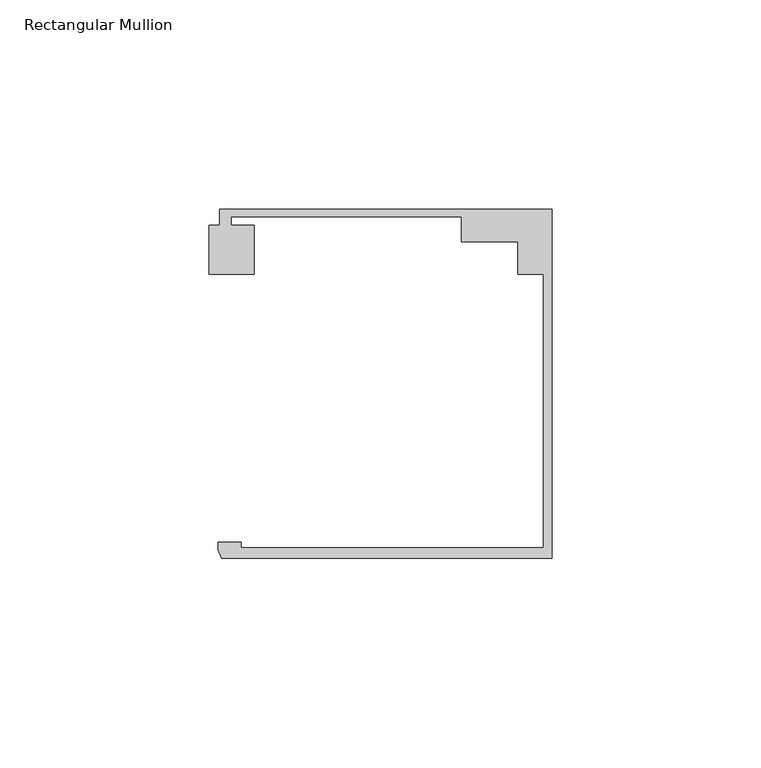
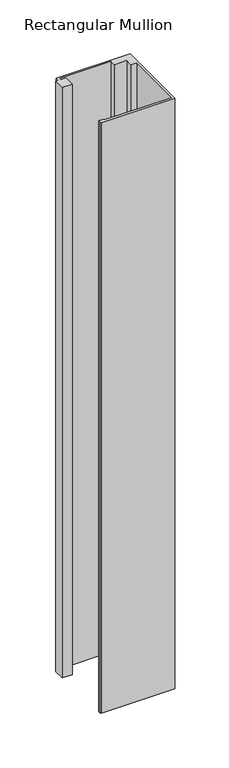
"""IFC4 building model written with IfcOpenShell, lengths in millimetres: member geometry, Rectangular Mullion : Danpal_Airpt_End-Mullion_B2."""

from ifc_helpers import new_model, si_unit, frame, origin, place, context, project, spatial, polyline, outline, extrude, source, transform, mapped, element, save


def rectangular_mullion_15ac1ae4(model_context):
    return source(origin(), model_context, "Body", "SweptSolid", [
        extrude(outline(polyline([(39.9953159, -74.9940824), (39.9953159, -9.7188964), (33.895316, -9.7188964), (33.895316, -1.8818054), (20.4474994, -1.8818054), (20.4474994, 4.0051512), (-34.6525006, 4.0051512), (-34.6525006, 2.0051513), (-29.1480372, 2.0051513), (-29.1480372, -9.6875514), (-39.8639164, -9.6875514), (-39.8639164, 2.0051513), (-37.3521714, 2.0051513), (-37.3521714, 5.8051514), (41.995316, 5.8051514), (41.995316, -77.4940825), (-36.8561849, -77.4940825), (-37.7831446, -75.5472671), (-37.7831446, -73.6940824), (-32.2521508, -73.6940824), (-32.2521508, -74.9940824), (39.9953159, -74.9940824)])), frame((0.0, 0.0, -669.8639164), z_axis=(0.0, 0.0, 1.0), x_axis=(1.0, 0.0, 0.0)), (0.0, 0.0, 1.0), 669.8639164),
    ])


if __name__ == "__main__":
    model = new_model("IFC4")
    model_context = context("Model", 3, world=origin())
    ifc_project = project(units=[si_unit("LENGTHUNIT", "METRE", prefix="MILLI")], contexts=[model_context])
    site = spatial("IfcSite", under=ifc_project)
    building = spatial("IfcBuilding", under=site)
    placement = place(None, origin())
    rectangular_mullion_shape = rectangular_mullion_15ac1ae4(model_context)
    element("IfcMember", 1, ObjectType="Rectangular Mullion : Danpal_Airpt_End-Mullion_B2", at=placement, inside=building, context=model_context, shape_type="MappedRepresentation", body=[
        mapped(rectangular_mullion_shape, transform((0.0, 0.0, 0.0), x_axis=(1.0, 0.0, 0.0), y_axis=(0.0, 1.0, 0.0), z_axis=(0.0, 0.0, 1.0))),
    ])
    save(model, "model.ifc")
